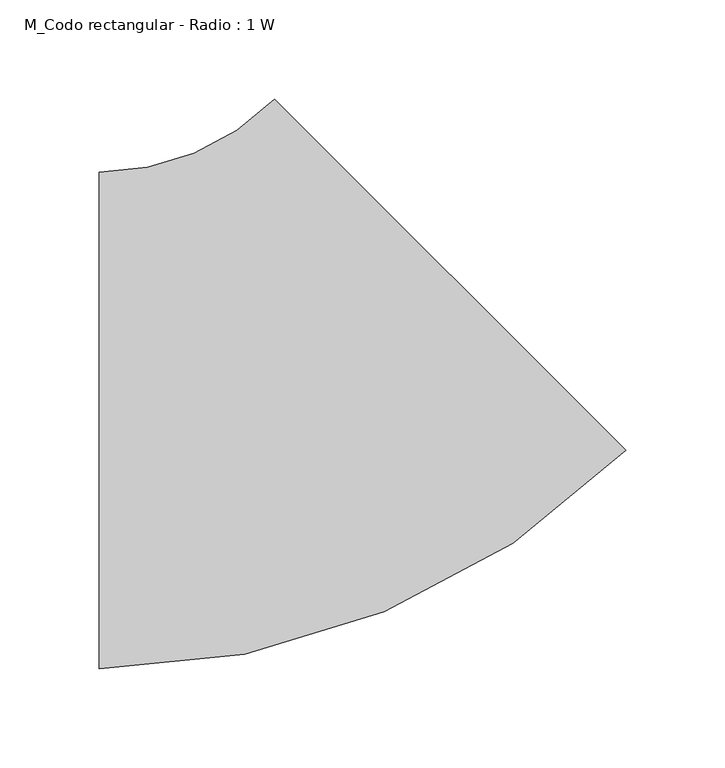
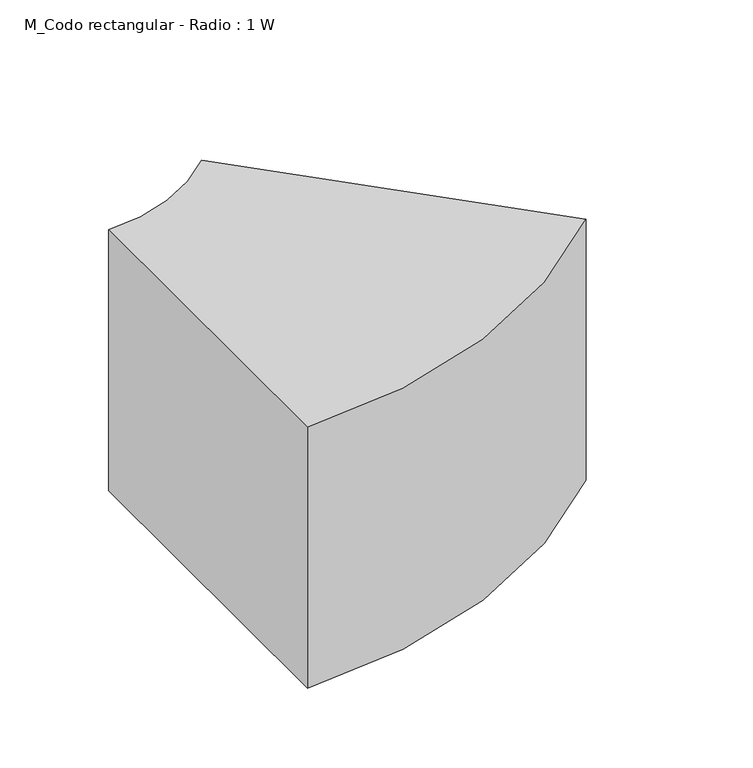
"""IFC4 building model written with IfcOpenShell, lengths in millimetres: duct fitting geometry, M_Codo rectangular - Radio : 1 W."""

from ifc_helpers import new_model, si_unit, point, frame, frame_2d, origin, place, context, project, spatial, polyline, circle_curve, trimmed, segment, composite_curve, outline, extrude, source, transform, mapped, element, save


def m_codo_rectangular_radio_1_w_e831a93f(model_context):
    return source(origin(), model_context, "Body", "SweptSolid", [
        extrude(outline(composite_curve([segment(trimmed(circle_curve(frame_2d((-103.5533906, 250.0)), 375.0), [point((161.6116524, -15.1650429))], [point((-103.5533906, -125.0))], False, "CARTESIAN"), True, "CONTINUOUS"), segment(polyline([(-103.5533906, -125.0), (-103.5533906, 125.0)]), True, "CONTINUOUS"), segment(trimmed(circle_curve(frame_2d((-103.5533906, 250.0)), 125.0), [point((-103.5533906, 125.0))], [point((-15.1650429, 161.6116524))], True, "CARTESIAN"), True, "CONTINUOUS"), segment(polyline([(-15.1650429, 161.6116524), (161.6116524, -15.1650429)]), True, "CONTINUOUS")], self_intersect=False)), frame((0.0, 0.0, -100.0), z_axis=(0.0, 0.0, 1.0), x_axis=(1.0, 0.0, 0.0)), (0.0, 0.0, 1.0), 200.0),
    ])


if __name__ == "__main__":
    model = new_model("IFC4")
    model_context = context("Model", 3, world=origin())
    ifc_project = project(units=[si_unit("LENGTHUNIT", "METRE", prefix="MILLI")], contexts=[model_context])
    site = spatial("IfcSite", under=ifc_project)
    building = spatial("IfcBuilding", under=site)
    placement = place(None, origin())
    m_codo_rectangular_radio_1_w_shape = m_codo_rectangular_radio_1_w_e831a93f(model_context)
    element("IfcDuctFitting", 1, ObjectType="M_Codo rectangular - Radio : 1 W", at=placement, inside=building, context=model_context, shape_type="MappedRepresentation", body=[
        mapped(m_codo_rectangular_radio_1_w_shape, transform((0.0, 0.0, 0.0), x_axis=(1.0, 0.0, 0.0), y_axis=(0.0, 1.0, 0.0), z_axis=(0.0, 0.0, 1.0))),
    ])
    save(model, "model.ifc")
